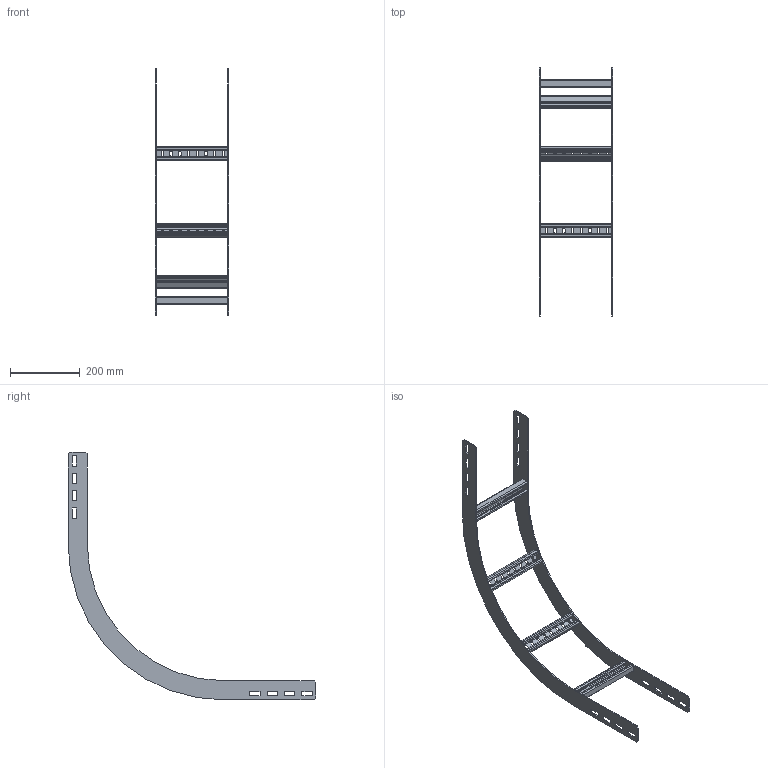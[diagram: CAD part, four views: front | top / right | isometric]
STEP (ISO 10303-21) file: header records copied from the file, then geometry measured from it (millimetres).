
FILE_DESCRIPTION(('Creo Elements/Direct Modeling STEP Export'),'2;1');
FILE_NAME('//pserver/office/EK/ME10-3D/3D-output/WPOR06-20-90-30.stp','2019-08-14T 9:44:08',(''),(''),'PTC Creo Elements/Direct Modeling STEP processor for AP214 (Solid Model)','PTC Creo Elements/Direct Modeling 19.0C 15-Aug-2015 (C) Parametric Technology GmbH','');
FILE_SCHEMA(('AUTOMOTIVE_DESIGN { 1 0 10303 214 1 1 1 1 }'));
Length unit declared in the file: millimetre
Products named in the file (3): WPORS_60-90-300; WPHBS20.1; WPOR06-20-90-30
Assembly tree (6 placements, depth 2):
  WPOR06-20-90-30
    WPHBS20.1  x4
    WPORS_60-90-300  x2
Bounding box: 211 x 710 x 710 mm (x, y, z)
Volume: 494200.9 mm3; surface area: 433731.4 mm2
Topology: 6 solids, 6 shells, 380 faces, 1104 edges, 736 vertices
Faces by surface type: plane 240, cylinder 140
Entity records: 4049 total; most frequent: CARTESIAN_POINT 695, ORIENTED_EDGE 684, DIRECTION 664, EDGE_CURVE 342, VECTOR 270, LINE 270, VERTEX_POINT 228, AXIS2_PLACEMENT_3D 197
